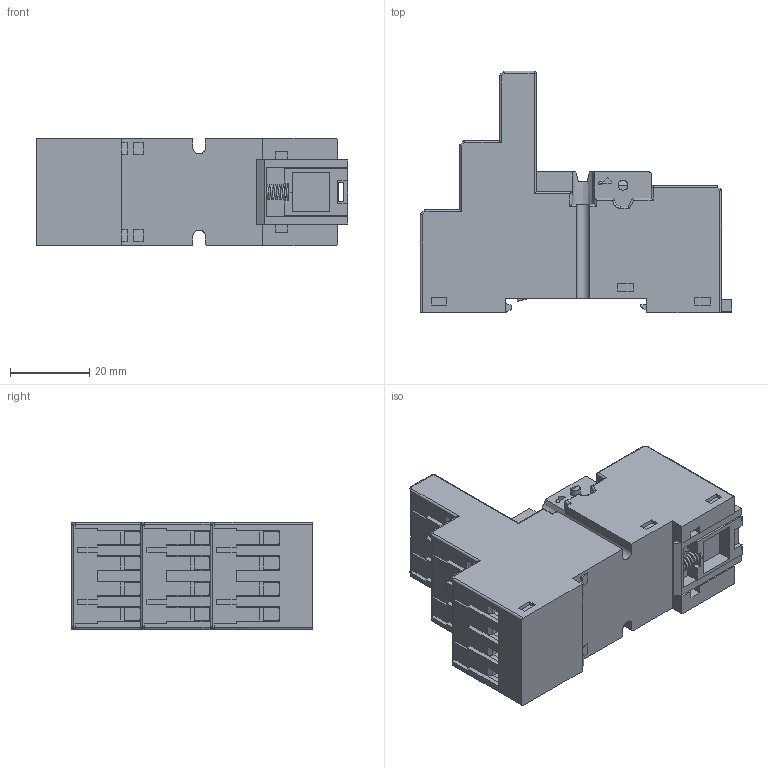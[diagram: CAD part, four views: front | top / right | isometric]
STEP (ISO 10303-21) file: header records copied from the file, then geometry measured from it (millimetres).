
FILE_DESCRIPTION(('STEP AP214'),'2;1');
FILE_NAME('9404_catalogo.stp','2010-09-07T16:02:13',(''),(''),'2007.1.106','THINKDESIGN','');
FILE_SCHEMA(('AUTOMOTIVE_DESIGN'));
Products named in the file (1): None
Bounding box: 78.6 x 60.9 x 27 mm (x, y, z)
Surface area: 23255.1 mm2 (no closed solid volume)
Topology: 0 solids, 0 shells, 961 faces, 5196 edges, 5190 vertices
Faces by surface type: plane 774, cylinder 136, bspline 51
Full cylindrical faces by diameter (mm): 0.9 x1, 2.5 x1, 3 x1, 4.7 x14, 5 x14
Entity records: 53219 total; most frequent: CARTESIAN_POINT 14807, DIRECTION 6702, COMPOSITE_CURVE_SEGMENT 5190, TRIMMED_CURVE 4611, VECTOR 4340, LINE 4340, AXIS2_PLACEMENT_3D 1181, OUTER_BOUNDARY_CURVE 961
